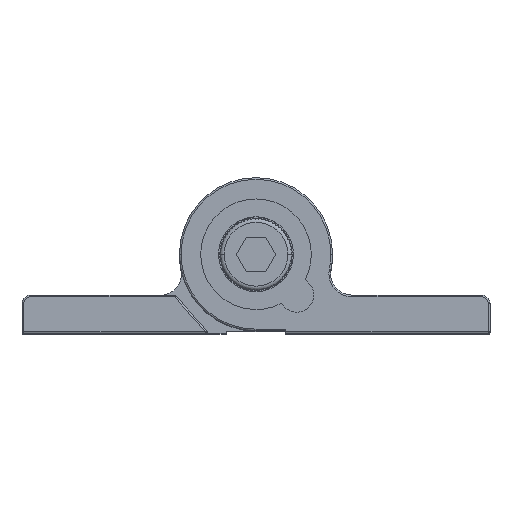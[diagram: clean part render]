
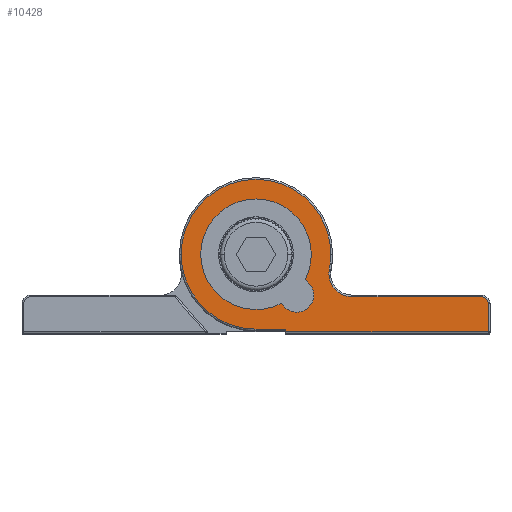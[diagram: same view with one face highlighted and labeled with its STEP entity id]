
A CAD part, top view. The second image highlights one B-rep face of the part: STEP entity #10428.
In plain terms, the highlighted planar face has unit normal (0, 0, 1).
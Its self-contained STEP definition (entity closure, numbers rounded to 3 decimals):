
#63 = CARTESIAN_POINT ( 'NONE',  ( 3.386, -6.214, 32.5 ) ) ;
#541 = DIRECTION ( 'NONE',  ( 1., 0., 0. ) ) ;
#722 = CIRCLE ( 'NONE', #18305, 6.5 ) ;
#729 = AXIS2_PLACEMENT_3D ( 'NONE', #23486, #10908, #25616 ) ;
#948 = ORIENTED_EDGE ( 'NONE', *, *, #23709, .T. ) ;
#1184 = LINE ( 'NONE', #5646, #11742 ) ;
#1326 = EDGE_CURVE ( 'NONE', #21699, #19041, #23913, .T. ) ;
#1455 = CIRCLE ( 'NONE', #11335, 2. ) ;
#1937 = CARTESIAN_POINT ( 'NONE',  ( 3.5, -8.8, 32.5 ) ) ;
#2014 = ORIENTED_EDGE ( 'NONE', *, *, #1326, .T. ) ;
#2083 = EDGE_CURVE ( 'NONE', #12246, #24677, #25219, .T. ) ;
#2121 = VECTOR ( 'NONE', #8740, 1000. ) ;
#2570 = CARTESIAN_POINT ( 'NONE',  ( 11.268, -2.3, 32.5 ) ) ;
#2814 = ORIENTED_EDGE ( 'NONE', *, *, #17761, .T. ) ;
#2820 = EDGE_CURVE ( 'NONE', #13864, #11027, #16639, .T. ) ;
#3222 = VERTEX_POINT ( 'NONE', #26986 ) ;
#3341 = VECTOR ( 'NONE', #11685, 1000. ) ;
#3431 = CIRCLE ( 'NONE', #23521, 8.8 ) ;
#3483 = AXIS2_PLACEMENT_3D ( 'NONE', #4968, #19663, #7084 ) ;
#3496 = VERTEX_POINT ( 'NONE', #14567 ) ;
#3585 = ORIENTED_EDGE ( 'NONE', *, *, #14394, .T. ) ;
#4281 = CARTESIAN_POINT ( 'NONE',  ( 8.622, -1.76, 32.5 ) ) ;
#4297 = ORIENTED_EDGE ( 'NONE', *, *, #2820, .F. ) ;
#4319 = ORIENTED_EDGE ( 'NONE', *, *, #9326, .F. ) ;
#4536 = DIRECTION ( 'NONE',  ( 0., 0., 1. ) ) ;
#4709 = DIRECTION ( 'NONE',  ( 1., 0., 0. ) ) ;
#4827 = CIRCLE ( 'NONE', #19731, 6.5 ) ;
#4968 = CARTESIAN_POINT ( 'NONE',  ( 0., 0., 32.5 ) ) ;
#5065 = ORIENTED_EDGE ( 'NONE', *, *, #17845, .T. ) ;
#5646 = CARTESIAN_POINT ( 'NONE',  ( 1.414, 1.414, 32.5 ) ) ;
#5916 = DIRECTION ( 'NONE',  ( 0., 0., 1. ) ) ;
#6214 = LINE ( 'NONE', #24621, #17381 ) ;
#6614 = DIRECTION ( 'NONE',  ( 0., 0., 1. ) ) ;
#6732 = AXIS2_PLACEMENT_3D ( 'NONE', #24778, #12196, #26904 ) ;
#6803 = CARTESIAN_POINT ( 'NONE',  ( 27.5, -9.1, 32.5 ) ) ;
#7084 = DIRECTION ( 'NONE',  ( 1., 0., 0. ) ) ;
#7091 = CARTESIAN_POINT ( 'NONE',  ( 27.3, -9.1, 32.5 ) ) ;
#7235 = VERTEX_POINT ( 'NONE', #1937 ) ;
#7363 = ORIENTED_EDGE ( 'NONE', *, *, #16512, .T. ) ;
#7506 = VERTEX_POINT ( 'NONE', #7091 ) ;
#8372 = CARTESIAN_POINT ( 'NONE',  ( 27.3, 0., 32.5 ) ) ;
#8740 = DIRECTION ( 'NONE',  ( 1., 0., 0. ) ) ;
#8909 = CARTESIAN_POINT ( 'NONE',  ( 4.8, -4.8, 32.5 ) ) ;
#8963 = LINE ( 'NONE', #11590, #3341 ) ;
#9037 = CARTESIAN_POINT ( 'NONE',  ( 3.5, -8.8, 32.5 ) ) ;
#9326 = EDGE_CURVE ( 'NONE', #17855, #13864, #20391, .T. ) ;
#9396 = VECTOR ( 'NONE', #541, 1000. ) ;
#10222 = CARTESIAN_POINT ( 'NONE',  ( 8.8, 0., 32.5 ) ) ;
#10341 = DIRECTION ( 'NONE',  ( 0., 0., 1. ) ) ;
#10394 = ORIENTED_EDGE ( 'NONE', *, *, #21894, .F. ) ;
#10428 = ADVANCED_FACE ( 'NONE', ( #23295, #13433 ), #12190, .T. ) ;
#10908 = DIRECTION ( 'NONE',  ( 0., 0., 1. ) ) ;
#10917 = EDGE_CURVE ( 'NONE', #11864, #25059, #4827, .T. ) ;
#11027 = VERTEX_POINT ( 'NONE', #63 ) ;
#11033 = DIRECTION ( 'NONE',  ( 1., 0., 0. ) ) ;
#11076 = CARTESIAN_POINT ( 'NONE',  ( 0., 0., 32.5 ) ) ;
#11335 = AXIS2_PLACEMENT_3D ( 'NONE', #8909, #23602, #11033 ) ;
#11590 = CARTESIAN_POINT ( 'NONE',  ( 0., -5., 32.5 ) ) ;
#11685 = DIRECTION ( 'NONE',  ( -1., 0., 0. ) ) ;
#11742 = VECTOR ( 'NONE', #26707, 1000. ) ;
#11815 = AXIS2_PLACEMENT_3D ( 'NONE', #2570, #17298, #4709 ) ;
#11864 = VERTEX_POINT ( 'NONE', #26791 ) ;
#11910 = EDGE_CURVE ( 'NONE', #7506, #21699, #24542, .T. ) ;
#12055 = DIRECTION ( 'NONE',  ( 0., -1., 0. ) ) ;
#12190 = PLANE ( 'NONE',  #17423 ) ;
#12196 = DIRECTION ( 'NONE',  ( 0., 0., 1. ) ) ;
#12246 = VERTEX_POINT ( 'NONE', #4281 ) ;
#12994 = EDGE_CURVE ( 'NONE', #26219, #7235, #16275, .T. ) ;
#13178 = DIRECTION ( 'NONE',  ( 1., 0., 0. ) ) ;
#13433 = FACE_BOUND ( 'NONE', #13442, .T. ) ;
#13442 = EDGE_LOOP ( 'NONE', ( #23931, #4297, #4319, #10394, #13962, #7363 ) ) ;
#13581 = EDGE_CURVE ( 'NONE', #11027, #26607, #1455, .T. ) ;
#13864 = VERTEX_POINT ( 'NONE', #26012 ) ;
#13959 = CARTESIAN_POINT ( 'NONE',  ( 6.5, 0., 32.5 ) ) ;
#13962 = ORIENTED_EDGE ( 'NONE', *, *, #10917, .F. ) ;
#14302 = CARTESIAN_POINT ( 'NONE',  ( 0., 0., 32.5 ) ) ;
#14394 = EDGE_CURVE ( 'NONE', #24677, #3496, #21162, .T. ) ;
#14567 = CARTESIAN_POINT ( 'NONE',  ( -8.8, 0., 32.5 ) ) ;
#16275 = LINE ( 'NONE', #9037, #9396 ) ;
#16512 = EDGE_CURVE ( 'NONE', #11864, #26607, #1184, .T. ) ;
#16519 = CARTESIAN_POINT ( 'NONE',  ( 27.3, -5.8, 32.5 ) ) ;
#16639 = LINE ( 'NONE', #17479, #21578 ) ;
#16998 = CARTESIAN_POINT ( 'NONE',  ( 26.5, -5., 32.5 ) ) ;
#17129 = CARTESIAN_POINT ( 'NONE',  ( 0., 0., 32.5 ) ) ;
#17298 = DIRECTION ( 'NONE',  ( 0., 0., -1. ) ) ;
#17381 = VECTOR ( 'NONE', #12055, 1000. ) ;
#17423 = AXIS2_PLACEMENT_3D ( 'NONE', #14302, #5916, #20641 ) ;
#17479 = CARTESIAN_POINT ( 'NONE',  ( -1.414, -1.414, 32.5 ) ) ;
#17761 = EDGE_CURVE ( 'NONE', #3496, #26219, #3431, .T. ) ;
#17768 = DIRECTION ( 'NONE',  ( 0.707, -0.707, 0. ) ) ;
#17845 = EDGE_CURVE ( 'NONE', #18571, #7506, #24509, .T. ) ;
#17855 = VERTEX_POINT ( 'NONE', #25768 ) ;
#18305 = AXIS2_PLACEMENT_3D ( 'NONE', #17129, #4536, #19236 ) ;
#18371 = AXIS2_PLACEMENT_3D ( 'NONE', #11076, #25794, #13178 ) ;
#18562 = ORIENTED_EDGE ( 'NONE', *, *, #11910, .T. ) ;
#18571 = VERTEX_POINT ( 'NONE', #21643 ) ;
#18588 = ORIENTED_EDGE ( 'NONE', *, *, #12994, .T. ) ;
#18723 = ORIENTED_EDGE ( 'NONE', *, *, #21255, .T. ) ;
#19041 = VERTEX_POINT ( 'NONE', #16998 ) ;
#19047 = CARTESIAN_POINT ( 'NONE',  ( 0., -8.8, 32.5 ) ) ;
#19194 = CARTESIAN_POINT ( 'NONE',  ( 0., 0., 32.5 ) ) ;
#19236 = DIRECTION ( 'NONE',  ( 1., 0., 0. ) ) ;
#19592 = VECTOR ( 'NONE', #20981, 1000. ) ;
#19663 = DIRECTION ( 'NONE',  ( 0., 0., 1. ) ) ;
#19731 = AXIS2_PLACEMENT_3D ( 'NONE', #22930, #10341, #25036 ) ;
#19858 = CIRCLE ( 'NONE', #11815, 2.7 ) ;
#20391 = CIRCLE ( 'NONE', #3483, 6.5 ) ;
#20641 = DIRECTION ( 'NONE',  ( 1., 0., 0. ) ) ;
#20981 = DIRECTION ( 'NONE',  ( 0., 1., 0. ) ) ;
#21162 = CIRCLE ( 'NONE', #18371, 8.8 ) ;
#21255 = EDGE_CURVE ( 'NONE', #3222, #12246, #19858, .T. ) ;
#21337 = DIRECTION ( 'NONE',  ( 1., 0., 0. ) ) ;
#21445 = CARTESIAN_POINT ( 'NONE',  ( 6.214, -3.386, 32.5 ) ) ;
#21578 = VECTOR ( 'NONE', #17768, 1000. ) ;
#21643 = CARTESIAN_POINT ( 'NONE',  ( 3.5, -9.1, 32.5 ) ) ;
#21699 = VERTEX_POINT ( 'NONE', #16519 ) ;
#21894 = EDGE_CURVE ( 'NONE', #25059, #17855, #722, .T. ) ;
#22209 = ORIENTED_EDGE ( 'NONE', *, *, #27185, .T. ) ;
#22930 = CARTESIAN_POINT ( 'NONE',  ( 0., 0., 32.5 ) ) ;
#23295 = FACE_OUTER_BOUND ( 'NONE', #24449, .T. ) ;
#23486 = CARTESIAN_POINT ( 'NONE',  ( 26.5, -5.8, 32.5 ) ) ;
#23521 = AXIS2_PLACEMENT_3D ( 'NONE', #19194, #6614, #21337 ) ;
#23602 = DIRECTION ( 'NONE',  ( 0., 0., 1. ) ) ;
#23709 = EDGE_CURVE ( 'NONE', #19041, #3222, #8963, .T. ) ;
#23913 = CIRCLE ( 'NONE', #729, 0.8 ) ;
#23931 = ORIENTED_EDGE ( 'NONE', *, *, #13581, .F. ) ;
#23975 = ORIENTED_EDGE ( 'NONE', *, *, #2083, .T. ) ;
#24449 = EDGE_LOOP ( 'NONE', ( #18588, #22209, #5065, #18562, #2014, #948, #18723, #23975, #3585, #2814 ) ) ;
#24509 = LINE ( 'NONE', #6803, #2121 ) ;
#24542 = LINE ( 'NONE', #8372, #19592 ) ;
#24621 = CARTESIAN_POINT ( 'NONE',  ( 3.5, 0., 32.5 ) ) ;
#24677 = VERTEX_POINT ( 'NONE', #10222 ) ;
#24778 = CARTESIAN_POINT ( 'NONE',  ( 0., 0., 32.5 ) ) ;
#25036 = DIRECTION ( 'NONE',  ( 1., 0., 0. ) ) ;
#25059 = VERTEX_POINT ( 'NONE', #13959 ) ;
#25219 = CIRCLE ( 'NONE', #6732, 8.8 ) ;
#25616 = DIRECTION ( 'NONE',  ( 1., 0., 0. ) ) ;
#25768 = CARTESIAN_POINT ( 'NONE',  ( -6.5, 0., 32.5 ) ) ;
#25794 = DIRECTION ( 'NONE',  ( 0., 0., 1. ) ) ;
#26012 = CARTESIAN_POINT ( 'NONE',  ( 2.959, -5.787, 32.5 ) ) ;
#26219 = VERTEX_POINT ( 'NONE', #19047 ) ;
#26607 = VERTEX_POINT ( 'NONE', #21445 ) ;
#26707 = DIRECTION ( 'NONE',  ( 0.707, -0.707, 0. ) ) ;
#26791 = CARTESIAN_POINT ( 'NONE',  ( 5.787, -2.959, 32.5 ) ) ;
#26904 = DIRECTION ( 'NONE',  ( 1., 0., 0. ) ) ;
#26986 = CARTESIAN_POINT ( 'NONE',  ( 11.268, -5., 32.5 ) ) ;
#27185 = EDGE_CURVE ( 'NONE', #7235, #18571, #6214, .T. ) ;
